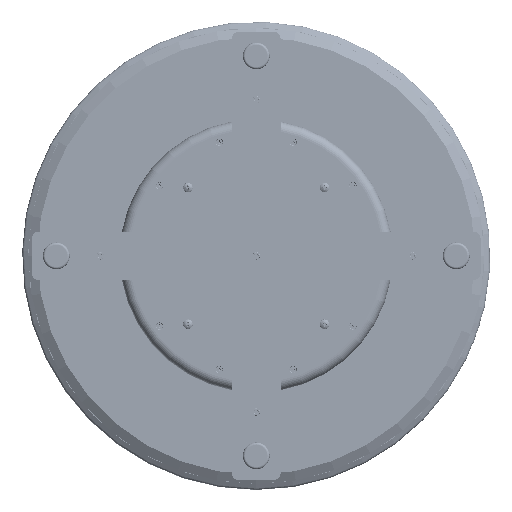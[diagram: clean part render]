
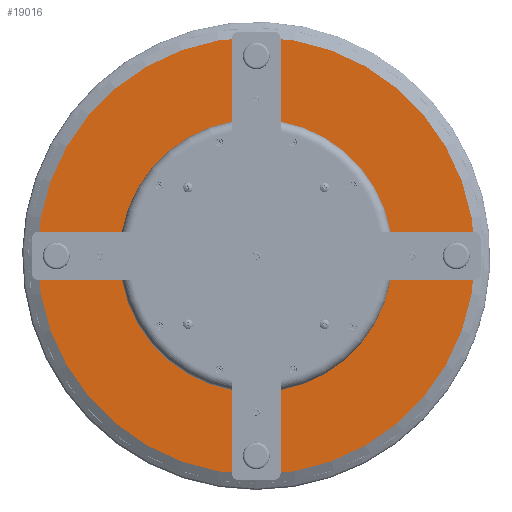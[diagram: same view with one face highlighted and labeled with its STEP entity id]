
A CAD part, front view. The second image highlights one B-rep face of the part: STEP entity #19016.
In plain terms, the highlighted planar face has unit normal (0, -1, 0).
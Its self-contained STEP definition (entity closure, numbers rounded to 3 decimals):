
#2159=CIRCLE('',#21463,11.213);
#3623=FACE_OUTER_BOUND('',#4917,.T.);
#4917=EDGE_LOOP('',(#16570));
#9298=VERTEX_POINT('',#44167);
#11779=EDGE_CURVE('',#9298,#9298,#2159,.T.);
#16570=ORIENTED_EDGE('',*,*,#11779,.T.);
#18035=PLANE('',#21466);
#19016=ADVANCED_FACE('',(#3623),#18035,.F.);
#21463=AXIS2_PLACEMENT_3D('',#44168,#26248,#26249);
#21466=AXIS2_PLACEMENT_3D('',#44173,#26255,#26256);
#26248=DIRECTION('center_axis',(0.,-1.,0.));
#26249=DIRECTION('ref_axis',(0.,0.,1.));
#26255=DIRECTION('center_axis',(0.,1.,0.));
#26256=DIRECTION('ref_axis',(0.,0.,1.));
#44167=CARTESIAN_POINT('',(0.,0.,-11.213));
#44168=CARTESIAN_POINT('Origin',(0.,0.,0.));
#44173=CARTESIAN_POINT('Origin',(0.,0.,0.));
